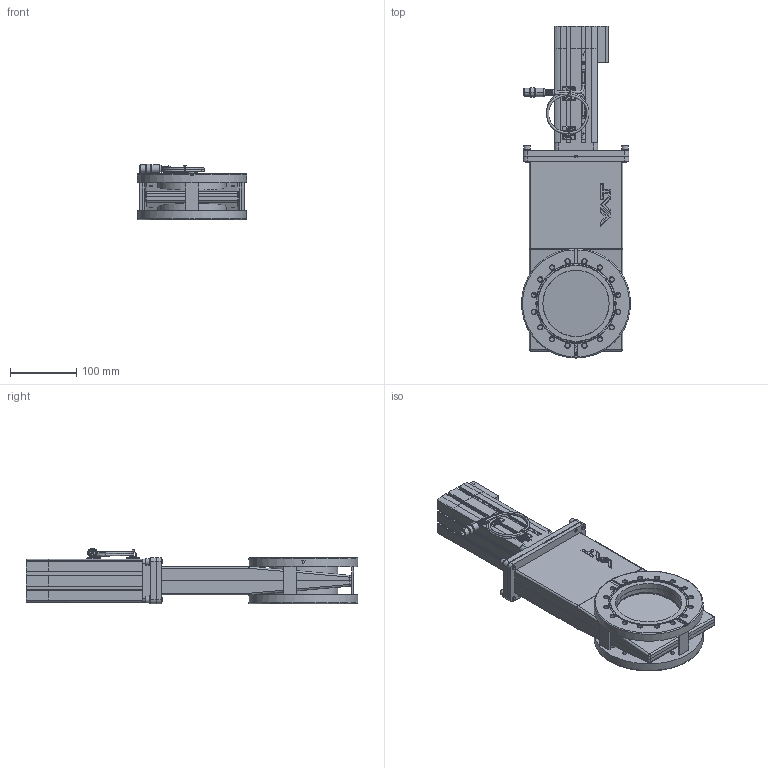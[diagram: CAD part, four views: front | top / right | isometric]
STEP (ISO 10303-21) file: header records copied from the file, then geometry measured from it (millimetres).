
FILE_DESCRIPTION(/* description */ (''),/* implementation_level */ '2;1');
FILE_NAME(/* name */ '1575504072_203.stp',/* time_stamp */ '2021-11-08T11:10:42+01:00',/* author */ (''),/* organization */ (''),/* preprocessor_version */ 'ST-DEVELOPER v16.7',/* originating_system */ 'SIEMENS PLM Software NX 1915',/* authorisation */ '');
FILE_SCHEMA (('AP203_CONFIGURATION_CONTROLLED_3D_DESIGN_OF_MECHANICAL_PARTS_AND_ASSEMBLIES_MIM_LF { 1 0 10303 403 2 1 2}'));
Length unit declared in the file: millimetre
Products named in the file (24): 251261.12_31455ID; 251260.4_31486ID; 251261.12_31492ID; 343001.1; 1041281; 589965; 408099; 990050; 487660; 411636_31507ID; 312601.1_122407ID; 251262.4; 251259.6; 312601.1; 1085547; 984070; 218189; n-6134-408; 250214.4; 1004825_NX-ARRAGMNTOpen ohne SV; 1081830_NX-ARRAGMNTDN100, Standard v3 ; 251258.9; 317195.3; 1096149
Assembly tree (37 placements, depth 4):
  1096149
    317195.3
      312601.1
      251259.6  x2
      251262.4  x3
      251258.9
        251261.12_31492ID
        251260.4_31486ID
        251261.12_31455ID
      312601.1_122407ID
    250214.4
    n-6134-408  x4
    218189  x4
    1081830_NX-ARRAGMNTDN100, Standard v3 
      411636_31507ID
      487660  x2
      990050
      408099  x2
    1004825_NX-ARRAGMNTOpen ohne SV
      589965
      1041281
      343001.1  x2
    984070  x2
    1085547  x2
Bounding box: 164.8 x 501.5 x 84.4 mm (x, y, z)
Volume: 1397574.9 mm3; surface area: 555558.6 mm2
Topology: 49 solids, 50 shells, 2863 faces, 7312 edges, 4540 vertices
Faces by surface type: plane 1329, cylinder 812, bspline 274, cone 244, torus 124, sphere 68, revolution 12
Full cylindrical faces by diameter (mm): 2.46 x2, 2.5 x2, 2.9 x2, 3 x4, 4 x2, 4.96 x4, 5 x11, 5.1 x2, 5.22 x4, 5.5 x2, 6 x8, 6.4 x6, 6.5 x5, 6.8 x32, 8 x3, 10 x4, 11 x5, 12 x1, 25.345 x1, 100.1 x8, 104.1 x2, 104.6 x2, 164.8 x2
Entity records: 87171 total; most frequent: CARTESIAN_POINT 23279, ORIENTED_EDGE 11360, DIRECTION 10904, EDGE_CURVE 5680, AXIS2_PLACEMENT_3D 3917, VERTEX_POINT 3698, LINE 3064, VECTOR 3064
